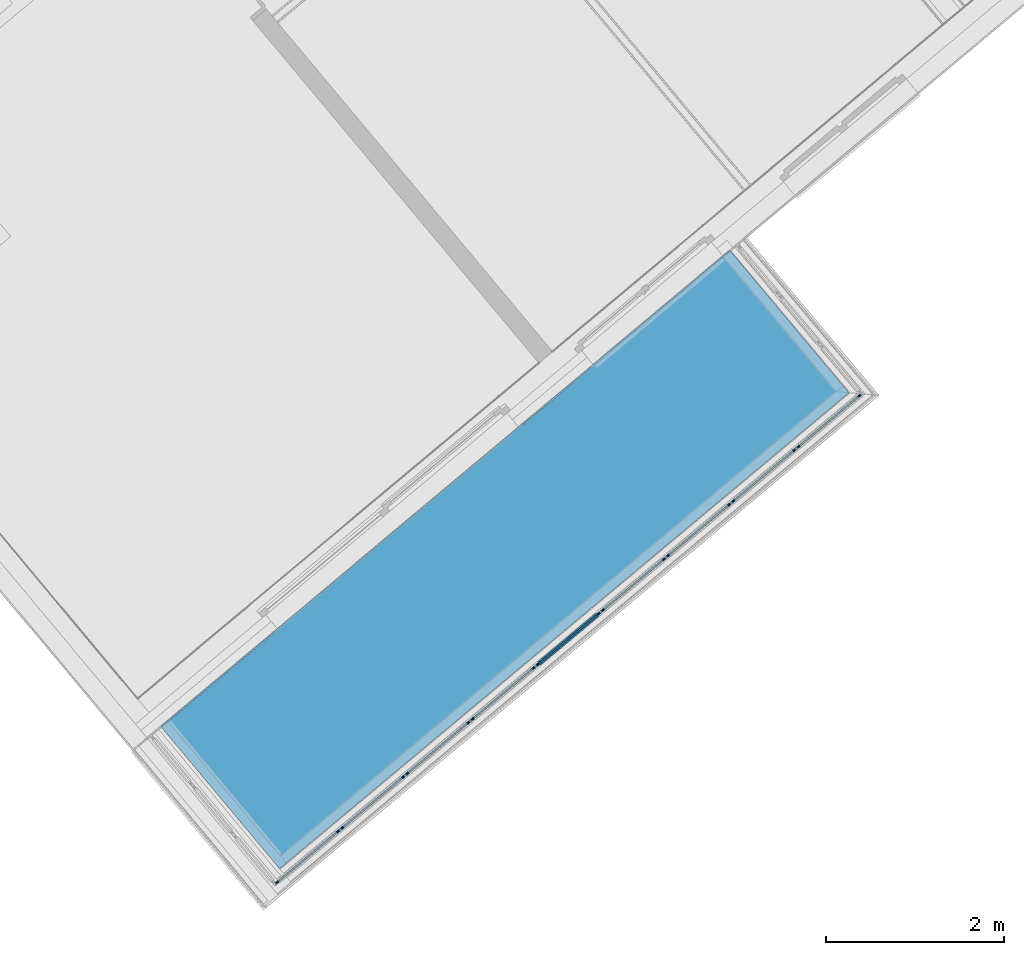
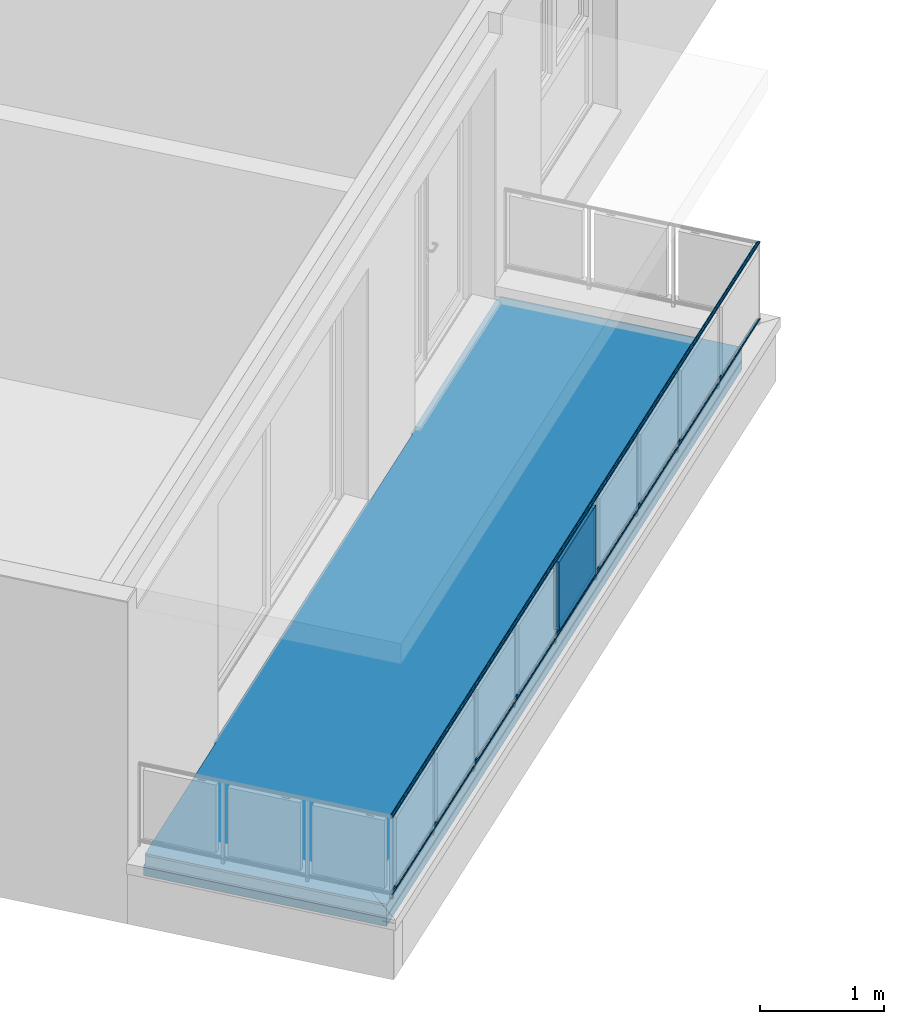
# One storey, part 18 of 50: 8 building element parts, 2 elements without a shape of their own.
"""IFC4 building model written with IfcOpenShell, lengths in metres."""

from ifc_helpers import new_model, entity, si_unit, converted_unit, derived_unit, direction, frame, origin_with_axes, place, context, subcontext, project, spatial, polygons, material, type_object, element, aggregate, save


model = new_model("IFC4")

# Units and contexts
model_context = context("Model", 3, precision=1e-05, world=origin_with_axes(), true_north=direction((0.0, 1.0)))
body_context = subcontext(model_context, "Body", "Model", "MODEL_VIEW")
ifc_project = project(units=[si_unit("LENGTHUNIT", "METRE"), si_unit("AREAUNIT", "SQUARE_METRE"), si_unit("VOLUMEUNIT", "CUBIC_METRE"), converted_unit("PLANEANGLEUNIT", "DEGREE", entity("IfcPlaneAngleMeasure", 0.0174532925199), si_unit("PLANEANGLEUNIT", "RADIAN"), dimensions=[0, 0, 0, 0, 0, 0, 0]), converted_unit("TIMEUNIT", "Year", entity("IfcTimeMeasure", 31556926.0), si_unit("TIMEUNIT", "SECOND"), dimensions=[0, 0, 1, 0, 0, 0, 0]), si_unit("MASSUNIT", "GRAM", prefix="KILO"), si_unit("THERMODYNAMICTEMPERATUREUNIT", "DEGREE_CELSIUS"), si_unit("LUMINOUSINTENSITYUNIT", "LUMEN"), si_unit("ENERGYUNIT", "JOULE", prefix="MEGA"), derived_unit("THERMALCONDUCTANCEUNIT", [(si_unit("POWERUNIT", "WATT"), 1), (si_unit("LENGTHUNIT", "METRE"), -1), (si_unit("THERMODYNAMICTEMPERATUREUNIT", "KELVIN"), -1)]), derived_unit("SPECIFICHEATCAPACITYUNIT", [(si_unit("ENERGYUNIT", "JOULE"), 1), (si_unit("MASSUNIT", "GRAM", prefix="KILO"), -1), (si_unit("THERMODYNAMICTEMPERATUREUNIT", "KELVIN"), -1)]), derived_unit("MASSDENSITYUNIT", [(si_unit("MASSUNIT", "GRAM", prefix="KILO"), 1), (si_unit("VOLUMEUNIT", "CUBIC_METRE"), -1)])], contexts=[model_context])

# Site, building, storey
site_placement = place(None, frame((-0.00153261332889, -0.00661245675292, 0.0), z_axis=(0.0, 0.0, 1.0), x_axis=(1.0, 0.0, 0.0)))
site = spatial("IfcSite", under=ifc_project, at=site_placement, Name="Site", CompositionType="ELEMENT")
building_placement = place(site_placement, origin_with_axes())
building = spatial("IfcBuilding", under=site, at=building_placement, Name="Building", CompositionType="ELEMENT")
storey_placement = place(building_placement, frame((0.0, 0.0, 2.74), z_axis=(0.0, 0.0, 1.0), x_axis=(1.0, 0.0, 0.0)))
storey = spatial("IfcBuildingStorey", under=building, at=storey_placement, Name="OG1", CompositionType="ELEMENT", Elevation=2.74)

# Covering, building element parts
covering_type = type_object("IfcCoveringType", Name="Balkon 220", PredefinedType="NOTDEFINED")
covering_placement = place(storey_placement, frame((-0.725470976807, 8.48139200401, 0.0), z_axis=(0.0, 0.0, 1.0), x_axis=(1.0, 0.0, 0.0)))
covering = element("IfcCovering", 1, at=covering_placement, inside=storey, type_object=covering_type, Name="Decke-005", PredefinedType="NOTDEFINED")
ifc_material_1 = material(Name="Platten")
building_element_part_1_placement = place(covering_placement, origin_with_axes())
building_element_part_1 = element("IfcBuildingElementPart", 2, at=building_element_part_1_placement, material=ifc_material_1, Name="Platten", PredefinedType="NOTDEFINED", context=body_context, shape_type="Tessellation", body=[
    polygons([(6.40130696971, 5.33644582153, 0.2), (6.40130696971, 5.33644582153, 0.22), (7.72966029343, 3.74434051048, 0.22), (7.72966029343, 3.74434051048, 0.2), (6.36075963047, 5.30251967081, 0.22), (6.36075963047, 5.30251967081, 0.2), (6.35113399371, 5.31402389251, 0.22), (4.81723776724, 4.03060565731, 0.22), (4.826863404, 4.01910143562, 0.22), (4.0671323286, 3.38343084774, 0.22), (4.05750669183, 3.39493506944, 0.22), (1.27196811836, 1.0642617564, 0.22), (1.28159375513, 1.0527575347, 0.22), (0.00961429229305, -0.0115137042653, 0.22), (1.3357848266, -1.59968419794, 0.22), (1.3357848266, -1.59968419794, 0.2), (0.00961429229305, -0.0115137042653, 0.2), (1.28159375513, 1.0527575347, 0.2), (1.27196811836, 1.0642617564, 0.2), (4.05750669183, 3.39493506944, 0.2), (4.0671323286, 3.38343084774, 0.2), (4.826863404, 4.01910143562, 0.2), (4.81723776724, 4.03060565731, 0.2), (6.35113399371, 5.31402389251, 0.2)], [[[1, 2, 3, 4]], [[5, 2, 1, 6]], [[5, 7, 8, 9, 10, 11, 12, 13, 14, 15, 3, 2]], [[16, 4, 3, 15]], [[6, 1, 4, 16, 17, 18, 19, 20, 21, 22, 23, 24]], [[7, 5, 6, 24]], [[7, 24, 23, 8]], [[9, 8, 23, 22]], [[10, 9, 22, 21]], [[11, 10, 21, 20]], [[11, 20, 19, 12]], [[13, 12, 19, 18]], [[14, 13, 18, 17]], [[14, 17, 16, 15]]], closed=True),
])
ifc_material_2 = material(Name="Luftschicht horizontal")
building_element_part_2_placement = place(covering_placement, origin_with_axes())
building_element_part_2 = element("IfcBuildingElementPart", 3, at=building_element_part_2_placement, material=ifc_material_2, Name="Luftschicht horizontal", PredefinedType="NOTDEFINED", context=body_context, shape_type="Tessellation", body=[
    polygons([(6.40130696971, 5.33644582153, 0.1), (6.40130696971, 5.33644582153, 0.2), (7.72966029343, 3.74434051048, 0.2), (7.72966029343, 3.74434051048, 0.1), (6.36075963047, 5.30251967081, 0.2), (6.36075963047, 5.30251967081, 0.1), (6.35113399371, 5.31402389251, 0.2), (4.81723776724, 4.03060565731, 0.2), (4.826863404, 4.01910143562, 0.2), (4.0671323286, 3.38343084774, 0.2), (4.05750669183, 3.39493506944, 0.2), (1.27196811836, 1.0642617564, 0.2), (1.28159375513, 1.0527575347, 0.2), (0.00961429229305, -0.0115137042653, 0.2), (1.3357848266, -1.59968419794, 0.2), (1.3357848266, -1.59968419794, 0.1), (0.00961429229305, -0.0115137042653, 0.1), (1.28159375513, 1.0527575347, 0.1), (1.27196811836, 1.0642617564, 0.1), (4.05750669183, 3.39493506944, 0.1), (4.0671323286, 3.38343084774, 0.1), (4.826863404, 4.01910143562, 0.1), (4.81723776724, 4.03060565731, 0.1), (6.35113399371, 5.31402389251, 0.1)], [[[1, 2, 3, 4]], [[5, 2, 1, 6]], [[5, 7, 8, 9, 10, 11, 12, 13, 14, 15, 3, 2]], [[16, 4, 3, 15]], [[6, 1, 4, 16, 17, 18, 19, 20, 21, 22, 23, 24]], [[7, 5, 6, 24]], [[7, 24, 23, 8]], [[9, 8, 23, 22]], [[10, 9, 22, 21]], [[11, 10, 21, 20]], [[11, 20, 19, 12]], [[13, 12, 19, 18]], [[14, 13, 18, 17]], [[14, 17, 16, 15]]], closed=True),
])
ifc_material_3 = material(Name="Sperrschicht")
building_element_part_3_placement = place(covering_placement, origin_with_axes())
building_element_part_3 = element("IfcBuildingElementPart", 4, at=building_element_part_3_placement, material=ifc_material_3, Name="Sperrschicht", PredefinedType="NOTDEFINED", context=body_context, shape_type="Tessellation", body=[
    polygons([(1.3357848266, -1.59968419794, 0.085), (1.3357848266, -1.59968419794, 0.1), (0.0, 0.0, 0.1), (0.0, 0.0, 0.085), (7.72966029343, 3.74434051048, 0.085), (7.72966029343, 3.74434051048, 0.1), (6.39169739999, 5.3479634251, 0.1), (6.39169739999, 5.3479634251, 0.085)], [[[1, 2, 3, 4]], [[5, 6, 2, 1]], [[3, 2, 6, 7]], [[4, 3, 7, 8]], [[4, 8, 5, 1]], [[8, 7, 6, 5]]], closed=True),
])
ifc_material_4 = material(Name="Stampfbeton")
building_element_part_4_placement = place(covering_placement, origin_with_axes())
building_element_part_4 = element("IfcBuildingElementPart", 5, at=building_element_part_4_placement, material=ifc_material_4, Name="Stampfbeton", PredefinedType="NOTDEFINED", context=body_context, shape_type="Tessellation", body=[
    polygons([(0.0, 0.0, 0.0), (1.3357848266, -1.59968419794, 0.0), (1.3357848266, -1.59968419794, 0.085), (0.0, 0.0, 0.085), (6.39169739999, 5.3479634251, 0.0), (7.72966029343, 3.74434051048, 0.0), (7.72966029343, 3.74434051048, 0.085), (6.39169739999, 5.3479634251, 0.085)], [[[1, 2, 3, 4]], [[1, 5, 6, 2]], [[2, 6, 7, 3]], [[4, 3, 7, 8]], [[5, 1, 4, 8]], [[6, 5, 8, 7]]], closed=True),
])
aggregate(covering, [building_element_part_1, building_element_part_2, building_element_part_3, building_element_part_4])

# Railing, building element parts
railing_type = type_object("IfcRailingType", Name="Geländerart", PredefinedType="NOTDEFINED")
railing_placement = place(storey_placement, frame((-0.869246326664, 8.34153645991, 0.38), z_axis=(0.0, 0.0, 1.0), x_axis=(1.0, 0.0, 0.0)))
railing = element("IfcRailing", 6, at=railing_placement, inside=storey, type_object=railing_type, Name="Geländer - 001", PredefinedType="NOTDEFINED")
ifc_material_5 = material(Name="Aluminium")
building_element_part_5_placement = place(railing_placement, origin_with_axes())
building_element_part_5 = element("IfcBuildingElementPart", 7, at=building_element_part_5_placement, material=ifc_material_5, Name="Aluminium", PredefinedType="NOTDEFINED", context=body_context, shape_type="Tessellation", body=[
    polygons([(1.43045725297, -1.61164879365, 0.825), (1.43042846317, -1.61196985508, 0.827604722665), (7.99343033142, 3.8734113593, 0.827604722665), (7.99310948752, 3.8734401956, 0.825), (1.43042846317, -1.61196985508, 0.822395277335), (1.43034296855, -1.61292328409, 0.81986969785), (1.43020336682, -1.61448011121, 0.8175), (1.43001389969, -1.61659303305, 0.815358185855), (1.42978032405, -1.61919784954, 0.813509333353), (1.42950973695, -1.62221541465, 0.812009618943), (1.42921036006, -1.62555404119, 0.810904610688), (1.42889128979, -1.62911228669, 0.810227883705), (1.42856222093, -1.63278203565, 0.81), (1.42823315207, -1.63645178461, 0.810227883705), (1.4279140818, -1.64001003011, 0.810904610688), (1.42761470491, -1.64334865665, 0.812009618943), (1.42734411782, -1.64636622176, 0.813509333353), (1.42711054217, -1.64897103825, 0.815358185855), (1.42692107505, -1.65108396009, 0.8175), (1.42678147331, -1.65264078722, 0.81986969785), (1.42669597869, -1.65359421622, 0.822395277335), (1.42666718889, -1.65391527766, 0.825), (1.42669597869, -1.65359421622, 0.827604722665), (1.42678147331, -1.65264078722, 0.83013030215), (1.42692107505, -1.65108396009, 0.8325), (1.42711054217, -1.64897103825, 0.834641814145), (1.42734411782, -1.64636622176, 0.836490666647), (1.42761470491, -1.64334865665, 0.837990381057), (1.4279140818, -1.64001003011, 0.839095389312), (1.42823315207, -1.63645178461, 0.839772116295), (1.42856222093, -1.63278203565, 0.84), (1.42889128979, -1.62911228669, 0.839772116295), (1.42921036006, -1.62555404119, 0.839095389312), (1.42950973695, -1.62221541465, 0.837990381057), (1.42978032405, -1.61919784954, 0.836490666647), (1.43001389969, -1.61659303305, 0.834641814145), (1.43020336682, -1.61448011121, 0.8325), (1.43034296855, -1.61292328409, 0.83013030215), (7.99438311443, 3.87332572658, 0.83013030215), (7.99593888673, 3.87318589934, 0.8325), (7.99805037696, 3.87299612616, 0.834641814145), (8.00065342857, 3.87276217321, 0.836490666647), (8.00366894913, 3.87249114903, 0.837990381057), (8.0070053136, 3.87219128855, 0.839095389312), (8.01056114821, 3.87187170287, 0.839772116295), (8.01422841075, 3.87154210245, 0.84), (8.01789567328, 3.87121250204, 0.839772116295), (8.02145150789, 3.87089291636, 0.839095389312), (8.02478787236, 3.87059305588, 0.837990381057), (8.02780339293, 3.8703220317, 0.836490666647), (8.03040644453, 3.87008807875, 0.834641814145), (8.03251793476, 3.86989830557, 0.8325), (8.03407370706, 3.86975847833, 0.83013030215), (8.03502649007, 3.86967284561, 0.827604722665), (8.03534733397, 3.86964400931, 0.825), (8.03502649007, 3.86967284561, 0.822395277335), (8.03407370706, 3.86975847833, 0.81986969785), (8.03251793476, 3.86989830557, 0.8175), (8.03040644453, 3.87008807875, 0.815358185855), (8.02780339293, 3.8703220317, 0.813509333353), (8.02478787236, 3.87059305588, 0.812009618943), (8.02145150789, 3.87089291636, 0.810904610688), (8.01789567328, 3.87121250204, 0.810227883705), (8.01422841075, 3.87154210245, 0.81), (8.01056114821, 3.87187170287, 0.810227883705), (8.0070053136, 3.87219128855, 0.810904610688), (8.00366894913, 3.87249114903, 0.812009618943), (8.00065342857, 3.87276217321, 0.813509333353), (7.99805037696, 3.87299612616, 0.815358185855), (7.99593888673, 3.87318589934, 0.8175), (7.99438311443, 3.87332572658, 0.81986969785), (7.99343033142, 3.8734113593, 0.822395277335)], [[[1, 2, 3, 4]], [[1, 5, 6, 7, 8, 9, 10, 11, 12, 13, 14, 15, 16, 17, 18, 19, 20, 21, 22, 23, 24, 25, 26, 27, 28, 29, 30, 31, 32, 33, 34, 35, 36, 37, 38, 2]], [[2, 38, 39, 3]], [[4, 3, 39, 40, 41, 42, 43, 44, 45, 46, 47, 48, 49, 50, 51, 52, 53, 54, 55, 56, 57, 58, 59, 60, 61, 62, 63, 64, 65, 66, 67, 68, 69, 70, 71, 72]], [[5, 1, 4, 72]], [[6, 5, 72, 71]], [[7, 6, 71, 70]], [[8, 7, 70, 69]], [[9, 8, 69, 68]], [[10, 9, 68, 67]], [[11, 10, 67, 66]], [[12, 11, 66, 65]], [[13, 12, 65, 64]], [[14, 13, 64, 63]], [[15, 14, 63, 62]], [[16, 15, 62, 61]], [[17, 16, 61, 60]], [[18, 17, 60, 59]], [[19, 18, 59, 58]], [[20, 19, 58, 57]], [[21, 20, 57, 56]], [[22, 21, 56, 55]], [[23, 22, 55, 54]], [[24, 23, 54, 53]], [[25, 24, 53, 52]], [[26, 25, 52, 51]], [[27, 26, 51, 50]], [[28, 27, 50, 49]], [[29, 28, 49, 48]], [[30, 29, 48, 47]], [[31, 30, 47, 46]], [[32, 31, 46, 45]], [[33, 32, 45, 44]], [[34, 33, 44, 43]], [[35, 34, 43, 42]], [[36, 35, 42, 41]], [[37, 36, 41, 40]], [[38, 37, 40, 39]]], closed=True),
])
building_element_part_6_placement = place(railing_placement, origin_with_axes())
building_element_part_6 = element("IfcBuildingElementPart", 8, at=building_element_part_6_placement, material=ifc_material_5, Name="Aluminium", PredefinedType="NOTDEFINED", context=body_context, shape_type="Tessellation", body=[
    polygons([(1.43045725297, -1.61164879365, 0.07), (1.43042846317, -1.61196985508, 0.072604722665), (7.99343033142, 3.8734113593, 0.072604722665), (7.99310948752, 3.8734401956, 0.07), (1.43042846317, -1.61196985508, 0.067395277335), (1.43034296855, -1.61292328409, 0.0648696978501), (1.43020336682, -1.61448011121, 0.0625), (1.43001389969, -1.61659303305, 0.0603581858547), (1.42978032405, -1.61919784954, 0.0585093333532), (1.42950973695, -1.62221541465, 0.0570096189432), (1.42921036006, -1.62555404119, 0.0559046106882), (1.42889128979, -1.62911228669, 0.0552278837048), (1.42856222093, -1.63278203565, 0.055), (1.42823315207, -1.63645178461, 0.0552278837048), (1.4279140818, -1.64001003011, 0.0559046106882), (1.42761470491, -1.64334865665, 0.0570096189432), (1.42734411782, -1.64636622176, 0.0585093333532), (1.42711054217, -1.64897103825, 0.0603581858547), (1.42692107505, -1.65108396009, 0.0625), (1.42678147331, -1.65264078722, 0.0648696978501), (1.42669597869, -1.65359421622, 0.067395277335), (1.42666718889, -1.65391527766, 0.07), (1.42669597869, -1.65359421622, 0.072604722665), (1.42678147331, -1.65264078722, 0.0751303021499), (1.42692107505, -1.65108396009, 0.0775), (1.42711054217, -1.64897103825, 0.0796418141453), (1.42734411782, -1.64636622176, 0.0814906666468), (1.42761470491, -1.64334865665, 0.0829903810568), (1.4279140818, -1.64001003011, 0.0840953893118), (1.42823315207, -1.63645178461, 0.0847721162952), (1.42856222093, -1.63278203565, 0.085), (1.42889128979, -1.62911228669, 0.0847721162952), (1.42921036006, -1.62555404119, 0.0840953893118), (1.42950973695, -1.62221541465, 0.0829903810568), (1.42978032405, -1.61919784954, 0.0814906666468), (1.43001389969, -1.61659303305, 0.0796418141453), (1.43020336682, -1.61448011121, 0.0775), (1.43034296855, -1.61292328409, 0.0751303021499), (7.99438311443, 3.87332572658, 0.0751303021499), (7.99593888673, 3.87318589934, 0.0775), (7.99805037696, 3.87299612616, 0.0796418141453), (8.00065342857, 3.87276217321, 0.0814906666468), (8.00366894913, 3.87249114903, 0.0829903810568), (8.0070053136, 3.87219128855, 0.0840953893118), (8.01056114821, 3.87187170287, 0.0847721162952), (8.01422841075, 3.87154210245, 0.085), (8.01789567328, 3.87121250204, 0.0847721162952), (8.02145150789, 3.87089291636, 0.0840953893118), (8.02478787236, 3.87059305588, 0.0829903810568), (8.02780339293, 3.8703220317, 0.0814906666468), (8.03040644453, 3.87008807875, 0.0796418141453), (8.03251793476, 3.86989830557, 0.0775), (8.03407370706, 3.86975847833, 0.0751303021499), (8.03502649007, 3.86967284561, 0.072604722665), (8.03534733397, 3.86964400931, 0.07), (8.03502649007, 3.86967284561, 0.067395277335), (8.03407370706, 3.86975847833, 0.0648696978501), (8.03251793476, 3.86989830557, 0.0625), (8.03040644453, 3.87008807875, 0.0603581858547), (8.02780339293, 3.8703220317, 0.0585093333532), (8.02478787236, 3.87059305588, 0.0570096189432), (8.02145150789, 3.87089291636, 0.0559046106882), (8.01789567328, 3.87121250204, 0.0552278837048), (8.01422841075, 3.87154210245, 0.055), (8.01056114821, 3.87187170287, 0.0552278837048), (8.0070053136, 3.87219128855, 0.0559046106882), (8.00366894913, 3.87249114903, 0.0570096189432), (8.00065342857, 3.87276217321, 0.0585093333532), (7.99805037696, 3.87299612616, 0.0603581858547), (7.99593888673, 3.87318589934, 0.0625), (7.99438311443, 3.87332572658, 0.0648696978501), (7.99343033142, 3.8734113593, 0.067395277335)], [[[1, 2, 3, 4]], [[1, 5, 6, 7, 8, 9, 10, 11, 12, 13, 14, 15, 16, 17, 18, 19, 20, 21, 22, 23, 24, 25, 26, 27, 28, 29, 30, 31, 32, 33, 34, 35, 36, 37, 38, 2]], [[2, 38, 39, 3]], [[4, 3, 39, 40, 41, 42, 43, 44, 45, 46, 47, 48, 49, 50, 51, 52, 53, 54, 55, 56, 57, 58, 59, 60, 61, 62, 63, 64, 65, 66, 67, 68, 69, 70, 71, 72]], [[5, 1, 4, 72]], [[6, 5, 72, 71]], [[7, 6, 71, 70]], [[8, 7, 70, 69]], [[9, 8, 69, 68]], [[10, 9, 68, 67]], [[11, 10, 67, 66]], [[12, 11, 66, 65]], [[13, 12, 65, 64]], [[14, 13, 64, 63]], [[15, 14, 63, 62]], [[16, 15, 62, 61]], [[17, 16, 61, 60]], [[18, 17, 60, 59]], [[19, 18, 59, 58]], [[20, 19, 58, 57]], [[21, 20, 57, 56]], [[22, 21, 56, 55]], [[23, 22, 55, 54]], [[24, 23, 54, 53]], [[25, 24, 53, 52]], [[26, 25, 52, 51]], [[27, 26, 51, 50]], [[28, 27, 50, 49]], [[29, 28, 49, 48]], [[30, 29, 48, 47]], [[31, 30, 47, 46]], [[32, 31, 46, 45]], [[33, 32, 45, 44]], [[34, 33, 44, 43]], [[35, 34, 43, 42]], [[36, 35, 42, 41]], [[37, 36, 41, 40]], [[38, 37, 40, 39]]], closed=True),
])
ifc_material_6 = material(Name="Profilit")
building_element_part_7_placement = place(railing_placement, origin_with_axes())
building_element_part_7 = element("IfcBuildingElementPart", 9, at=building_element_part_7_placement, material=ifc_material_6, Name="Profilit", PredefinedType="NOTDEFINED", context=body_context, shape_type="Tessellation", body=[
    polygons([(5.03097889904, 1.39116404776, 0.135), (4.39898568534, 0.862941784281, 0.135), (4.39898568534, 0.862941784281, 0.775), (5.03097889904, 1.39116404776, 0.775), (4.41181173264, 0.847596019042, 0.135), (5.04380494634, 1.37581828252, 0.135), (4.41181173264, 0.847596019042, 0.775), (5.04380494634, 1.37581828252, 0.775)], [[[1, 2, 3, 4]], [[5, 2, 1, 6]], [[7, 3, 2, 5]], [[4, 3, 7, 8]], [[1, 4, 8, 6]], [[7, 5, 6, 8]]], closed=True),
])
building_element_part_8_placement = place(railing_placement, origin_with_axes())
building_element_part_8 = element("IfcBuildingElementPart", 10, at=building_element_part_8_placement, material=ifc_material_5, Name="Aluminium", PredefinedType="NOTDEFINED", context=body_context, shape_type="Tessellation", body=[
    polygons([(4.46901495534, 0.911697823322, 0.12), (4.52272513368, 0.956588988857, 0.12), (4.52272513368, 0.956588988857, 0.095), (4.46901495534, 0.911697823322, 0.095), (4.47222146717, 0.907861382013, 0.12), (4.5259316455, 0.952752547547, 0.12), (4.5259316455, 0.952752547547, 0.095), (4.47222146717, 0.907861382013, 0.095)], [[[1, 2, 3, 4]], [[5, 6, 2, 1]], [[2, 6, 7, 3]], [[4, 3, 7, 8]], [[1, 4, 8, 5]], [[8, 7, 6, 5]]], closed=True),
    polygons([(4.97056916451, 1.33089868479, 0.79), (4.91685898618, 1.28600751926, 0.79), (4.91685898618, 1.28600751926, 0.795), (4.97056916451, 1.33089868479, 0.795), (4.97377567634, 1.32706224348, 0.79), (4.920065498, 1.28217107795, 0.79), (4.920065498, 1.28217107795, 0.795), (4.97377567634, 1.32706224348, 0.795)], [[[1, 2, 3, 4]], [[5, 6, 2, 1]], [[2, 6, 7, 3]], [[4, 3, 7, 8]], [[1, 4, 8, 5]], [[8, 7, 6, 5]]], closed=True),
    polygons([(4.40992194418, 0.826467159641, 0.12), (4.37785682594, 0.864831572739, 0.12), (5.0328686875, 1.41229290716, 0.12), (5.06493380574, 1.37392849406, 0.12), (4.42526770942, 0.839293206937, 0.14), (4.41564817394, 0.850802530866, 0.14), (4.41181173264, 0.847596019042, 0.135), (4.39898568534, 0.862941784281, 0.135), (4.40282212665, 0.866148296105, 0.14), (4.39320259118, 0.877657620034, 0.14), (5.01752292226, 1.39946685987, 0.14), (5.01752292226, 1.39946685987, 0.77), (4.39320259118, 0.877657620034, 0.77), (4.39320259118, 0.877657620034, 0.14), (4.37785682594, 0.864831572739, 0.12), (4.37785682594, 0.864831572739, 0.79), (5.0328686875, 1.41229290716, 0.79), (5.06493380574, 1.37392849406, 0.79), (4.40992194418, 0.826467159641, 0.79), (4.40992194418, 0.826467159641, 0.12), (4.42526770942, 0.839293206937, 0.14), (4.42526770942, 0.839293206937, 0.77), (5.0495880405, 1.36110244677, 0.77), (5.0495880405, 1.36110244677, 0.14), (5.03996850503, 1.3726117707, 0.14), (5.03996850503, 1.3726117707, 0.77), (4.41564817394, 0.850802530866, 0.77), (4.41564817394, 0.850802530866, 0.14), (4.41181173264, 0.847596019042, 0.135), (4.41181173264, 0.847596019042, 0.775), (5.04380494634, 1.37581828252, 0.775), (5.04380494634, 1.37581828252, 0.135), (5.03097889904, 1.39116404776, 0.135), (5.03097889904, 1.39116404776, 0.775), (4.39898568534, 0.862941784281, 0.775), (4.39898568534, 0.862941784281, 0.135), (4.40282212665, 0.866148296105, 0.14), (4.40282212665, 0.866148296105, 0.77), (5.02714245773, 1.38795753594, 0.77), (5.02714245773, 1.38795753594, 0.14)], [[[1, 2, 3, 4]], [[1, 5, 6, 7, 8, 9, 10, 2]], [[2, 10, 11, 12, 13, 14, 15, 16, 17, 3]], [[4, 3, 17, 18]], [[5, 1, 4, 18, 19, 20, 21, 22, 23, 24]], [[6, 5, 24, 25]], [[7, 6, 25, 26, 27, 28, 29, 30, 31, 32]], [[8, 7, 32, 33]], [[9, 8, 33, 34, 35, 36, 37, 38, 39, 40]], [[10, 9, 40, 11]], [[11, 40, 39, 12]], [[12, 39, 38, 13]], [[13, 38, 37, 14]], [[20, 15, 14, 37, 36, 29, 28, 21]], [[19, 16, 15, 20]], [[18, 17, 16, 19]], [[27, 22, 21, 28]], [[26, 23, 22, 27]], [[25, 24, 23, 26]], [[35, 30, 29, 36]], [[34, 31, 30, 35]], [[33, 32, 31, 34]]], closed=True),
])
aggregate(railing, [building_element_part_5, building_element_part_6, building_element_part_7, building_element_part_8])

save(model, "model.ifc")
